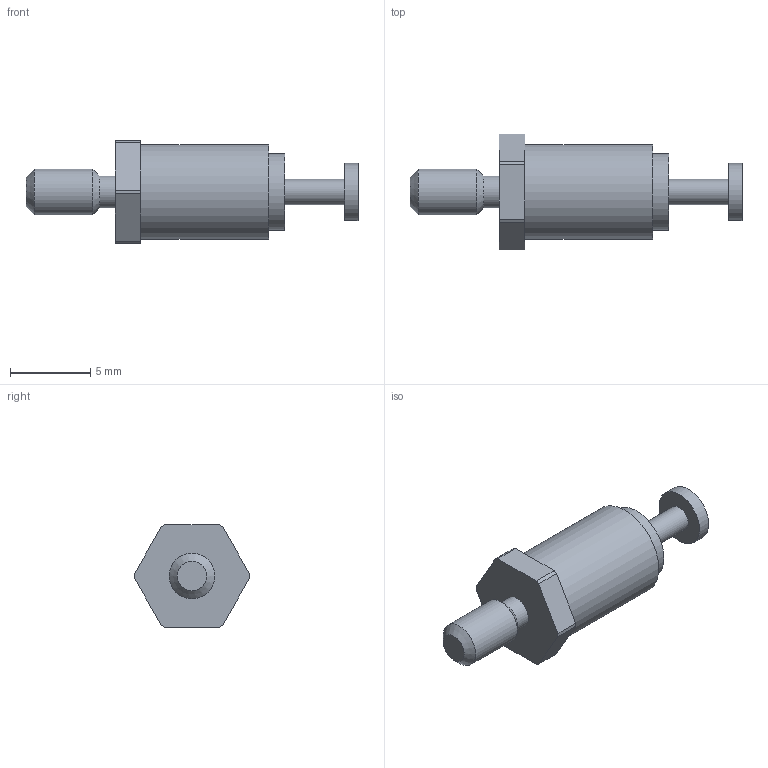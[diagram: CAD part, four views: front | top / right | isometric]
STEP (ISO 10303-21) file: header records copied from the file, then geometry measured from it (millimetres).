
FILE_DESCRIPTION(/* description */ (''),/* implementation_level */ '2;1');
FILE_NAME(/* name */ '\\Snap1\dwgs\Customer 3D Models\572\572-4834-01 Customer model.stp',/* time_stamp */ '2017-01-10T16:44:33+00:00',/* author */ ('paulk'),/* organization */ (''),/* preprocessor_version */ 'ST-DEVELOPER v15.2',/* originating_system */ 'Autodesk Inventor 2014',/* authorisation */ '');
FILE_SCHEMA (('CONFIG_CONTROL_DESIGN'));
Length unit declared in the file: millimetre
Products named in the file (1): 572-4834-01 Customer model
Bounding box: 20.65 x 7.2 x 6.35 mm (x, y, z)
Volume: 335.7 mm3; surface area: 358.1 mm2
Topology: 1 solids, 1 shells, 27 faces, 57 edges, 37 vertices
Faces by surface type: plane 13, cylinder 12, cone 2
Full cylindrical faces by diameter (mm): 1.575 x1, 1.981 x1, 2.844 x1, 3.556 x1, 4.775 x1, 5.893 x1
Entity records: 761 total; most frequent: DIRECTION 130, CARTESIAN_POINT 114, ORIENTED_EDGE 98, AXIS2_PLACEMENT_3D 53, EDGE_CURVE 49, EDGE_LOOP 40, VERTEX_POINT 37, STYLED_ITEM 28
